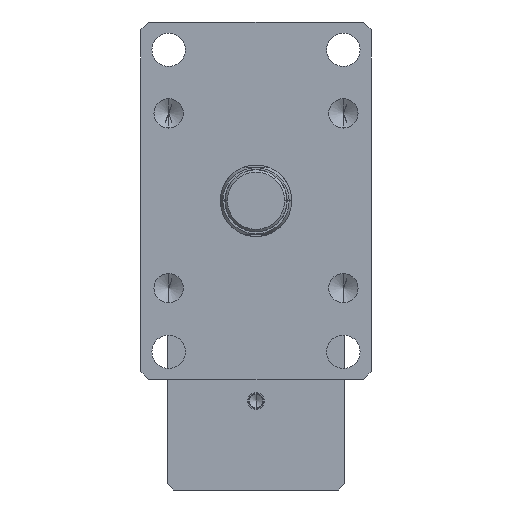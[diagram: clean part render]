
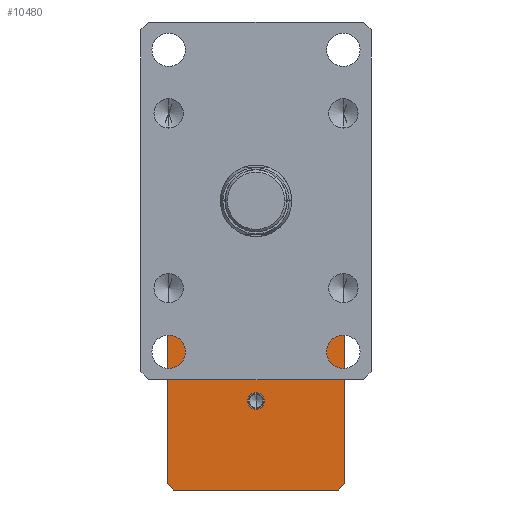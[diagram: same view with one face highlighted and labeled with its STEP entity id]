
A CAD part, left-side view. The second image highlights one B-rep face of the part: STEP entity #10480.
In plain terms, the highlighted planar face has unit normal (-1, 0, 0).
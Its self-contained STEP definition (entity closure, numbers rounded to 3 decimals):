
#221 = LINE ( 'NONE', #827, #5477 ) ;
#244 = ORIENTED_EDGE ( 'NONE', *, *, #7897, .T. ) ;
#315 = DIRECTION ( 'NONE',  ( 0., 0., 1. ) ) ;
#500 = FACE_BOUND ( 'NONE', #5580, .T. ) ;
#633 = DIRECTION ( 'NONE',  ( 1., 0., 0. ) ) ;
#794 = CARTESIAN_POINT ( 'NONE',  ( 325., 0., -131.143 ) ) ;
#795 = DIRECTION ( 'NONE',  ( 0., -0.707, 0.707 ) ) ;
#827 = CARTESIAN_POINT ( 'NONE',  ( 325., 56., -74. ) ) ;
#831 = EDGE_CURVE ( 'NONE', #4761, #6442, #11605, .T. ) ;
#900 = ORIENTED_EDGE ( 'NONE', *, *, #7384, .F. ) ;
#919 = ORIENTED_EDGE ( 'NONE', *, *, #12474, .F. ) ;
#969 = AXIS2_PLACEMENT_3D ( 'NONE', #12113, #6235, #315 ) ;
#1114 = CARTESIAN_POINT ( 'NONE',  ( 325., -56., -70. ) ) ;
#1307 = CARTESIAN_POINT ( 'NONE',  ( 325., 52., -182. ) ) ;
#1320 = CARTESIAN_POINT ( 'NONE',  ( 325., 0., -120.857 ) ) ;
#1702 = LINE ( 'NONE', #3394, #11859 ) ;
#1803 = DIRECTION ( 'NONE',  ( 0., 0.707, -0.707 ) ) ;
#1838 = VERTEX_POINT ( 'NONE', #1320 ) ;
#1854 = CARTESIAN_POINT ( 'NONE',  ( 325., 52., -182. ) ) ;
#2010 = CARTESIAN_POINT ( 'NONE',  ( 325., 0., -126. ) ) ;
#2069 = VECTOR ( 'NONE', #5230, 1000. ) ;
#2335 = VERTEX_POINT ( 'NONE', #9382 ) ;
#2568 = PLANE ( 'NONE',  #9341 ) ;
#2991 = DIRECTION ( 'NONE',  ( 0., 0., 1. ) ) ;
#3143 = VECTOR ( 'NONE', #3836, 1000. ) ;
#3209 = VERTEX_POINT ( 'NONE', #5510 ) ;
#3394 = CARTESIAN_POINT ( 'NONE',  ( 325., -56., -182. ) ) ;
#3471 = AXIS2_PLACEMENT_3D ( 'NONE', #2010, #8919, #2991 ) ;
#3534 = CARTESIAN_POINT ( 'NONE',  ( 325., -56., -182. ) ) ;
#3564 = ORIENTED_EDGE ( 'NONE', *, *, #4201, .T. ) ;
#3836 = DIRECTION ( 'NONE',  ( 0., 0.707, 0.707 ) ) ;
#4192 = VECTOR ( 'NONE', #4840, 1000. ) ;
#4201 = EDGE_CURVE ( 'NONE', #6122, #4761, #10390, .T. ) ;
#4476 = EDGE_CURVE ( 'NONE', #8532, #8109, #12223, .T. ) ;
#4561 = ORIENTED_EDGE ( 'NONE', *, *, #6013, .T. ) ;
#4761 = VERTEX_POINT ( 'NONE', #6193 ) ;
#4840 = DIRECTION ( 'NONE',  ( 0., -0.707, -0.707 ) ) ;
#5230 = DIRECTION ( 'NONE',  ( 0., 1., 0. ) ) ;
#5252 = VERTEX_POINT ( 'NONE', #12104 ) ;
#5477 = VECTOR ( 'NONE', #1803, 1000. ) ;
#5510 = CARTESIAN_POINT ( 'NONE',  ( 325., 56., -74. ) ) ;
#5580 = EDGE_LOOP ( 'NONE', ( #900, #6176 ) ) ;
#5898 = ORIENTED_EDGE ( 'NONE', *, *, #831, .T. ) ;
#6013 = EDGE_CURVE ( 'NONE', #8532, #2335, #6107, .T. ) ;
#6107 = LINE ( 'NONE', #6666, #10996 ) ;
#6122 = VERTEX_POINT ( 'NONE', #9837 ) ;
#6176 = ORIENTED_EDGE ( 'NONE', *, *, #11032, .F. ) ;
#6193 = CARTESIAN_POINT ( 'NONE',  ( 325., -52., -70. ) ) ;
#6235 = DIRECTION ( 'NONE',  ( -1., 0., 0. ) ) ;
#6402 = VECTOR ( 'NONE', #7039, 1000. ) ;
#6442 = VERTEX_POINT ( 'NONE', #10386 ) ;
#6639 = EDGE_CURVE ( 'NONE', #6442, #3209, #221, .T. ) ;
#6666 = CARTESIAN_POINT ( 'NONE',  ( 325., -52., -182. ) ) ;
#6831 = LINE ( 'NONE', #1854, #4192 ) ;
#7039 = DIRECTION ( 'NONE',  ( 0., 1., 0. ) ) ;
#7384 = EDGE_CURVE ( 'NONE', #1838, #11399, #9489, .T. ) ;
#7541 = DIRECTION ( 'NONE',  ( 0., 0., -1. ) ) ;
#7651 = CARTESIAN_POINT ( 'NONE',  ( 325., 56., -182. ) ) ;
#7767 = LINE ( 'NONE', #7651, #12359 ) ;
#7897 = EDGE_CURVE ( 'NONE', #5252, #8109, #6831, .T. ) ;
#8109 = VERTEX_POINT ( 'NONE', #1307 ) ;
#8227 = CIRCLE ( 'NONE', #3471, 5.143 ) ;
#8532 = VERTEX_POINT ( 'NONE', #12526 ) ;
#8919 = DIRECTION ( 'NONE',  ( -1., 0., 0. ) ) ;
#9245 = ORIENTED_EDGE ( 'NONE', *, *, #6639, .T. ) ;
#9341 = AXIS2_PLACEMENT_3D ( 'NONE', #3534, #633, #7541 ) ;
#9354 = ORIENTED_EDGE ( 'NONE', *, *, #9541, .T. ) ;
#9382 = CARTESIAN_POINT ( 'NONE',  ( 325., -56., -178. ) ) ;
#9489 = CIRCLE ( 'NONE', #969, 5.143 ) ;
#9541 = EDGE_CURVE ( 'NONE', #2335, #6122, #1702, .T. ) ;
#9775 = CARTESIAN_POINT ( 'NONE',  ( 325., -56., -74. ) ) ;
#9837 = CARTESIAN_POINT ( 'NONE',  ( 325., -56., -74. ) ) ;
#10288 = DIRECTION ( 'NONE',  ( 0., 0., 1. ) ) ;
#10386 = CARTESIAN_POINT ( 'NONE',  ( 325., 52., -70. ) ) ;
#10390 = LINE ( 'NONE', #9775, #3143 ) ;
#10480 = ADVANCED_FACE ( 'NONE', ( #500, #12660 ), #2568, .F. ) ;
#10996 = VECTOR ( 'NONE', #795, 1000. ) ;
#11032 = EDGE_CURVE ( 'NONE', #11399, #1838, #8227, .T. ) ;
#11102 = CARTESIAN_POINT ( 'NONE',  ( 325., -56., -182. ) ) ;
#11399 = VERTEX_POINT ( 'NONE', #794 ) ;
#11605 = LINE ( 'NONE', #1114, #6402 ) ;
#11831 = ORIENTED_EDGE ( 'NONE', *, *, #4476, .F. ) ;
#11857 = EDGE_LOOP ( 'NONE', ( #9354, #3564, #5898, #9245, #919, #244, #11831, #4561 ) ) ;
#11859 = VECTOR ( 'NONE', #10288, 1000. ) ;
#12104 = CARTESIAN_POINT ( 'NONE',  ( 325., 56., -178. ) ) ;
#12113 = CARTESIAN_POINT ( 'NONE',  ( 325., 0., -126. ) ) ;
#12223 = LINE ( 'NONE', #11102, #2069 ) ;
#12359 = VECTOR ( 'NONE', #12532, 1000. ) ;
#12474 = EDGE_CURVE ( 'NONE', #5252, #3209, #7767, .T. ) ;
#12526 = CARTESIAN_POINT ( 'NONE',  ( 325., -52., -182. ) ) ;
#12532 = DIRECTION ( 'NONE',  ( 0., 0., 1. ) ) ;
#12660 = FACE_OUTER_BOUND ( 'NONE', #11857, .T. ) ;
